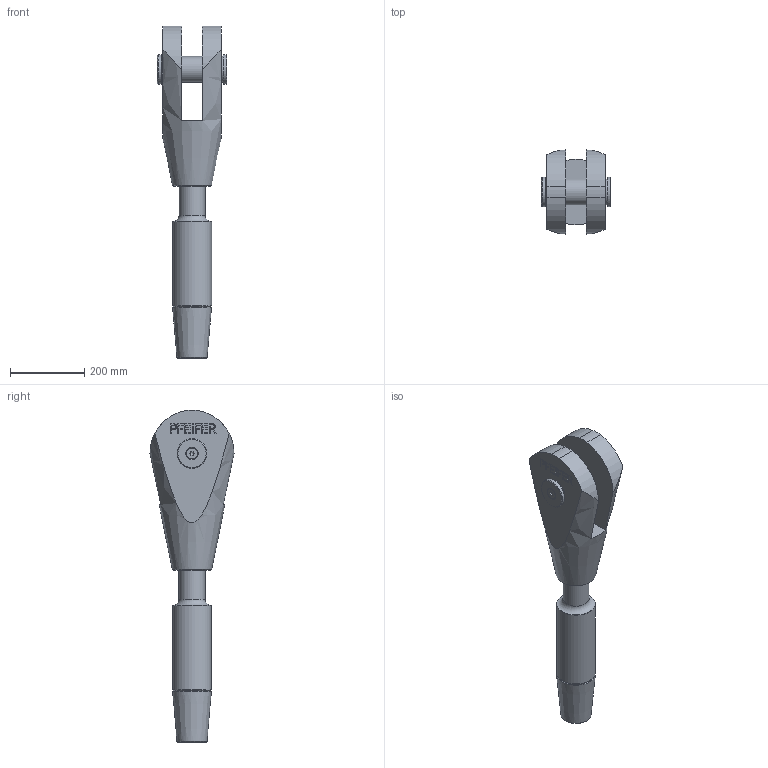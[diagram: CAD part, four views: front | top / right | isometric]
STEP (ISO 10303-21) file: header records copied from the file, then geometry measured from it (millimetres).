
FILE_DESCRIPTION(/* description */ (''),/* implementation_level */ '2;1');
FILE_NAME(/* name */ 'G:\Engineering\700 CAD\Internet-PX-1-step-igs-dxf\520-GAK-ADA-Arbeitsdateien\520-070-GAK-ADA.stp',/* time_stamp */ '2020-07-03T13:12:45+02:00',/* author */ ('schwarz'),/* organization */ (''),/* preprocessor_version */ 'ST-DEVELOPER v16.1',/* originating_system */ 'Autodesk Inventor 2016',/* authorisation */ '');
FILE_SCHEMA (('AUTOMOTIVE_DESIGN { 1 0 10303 214 3 1 1 }'));
Length unit declared in the file: centimetre
Products named in the file (1): 520-070-GAK-ADA-Kunde
Bounding box: 187.3 x 226.18 x 892.88 mm (x, y, z)
Volume: 10428153.7 mm3; surface area: 567303.2 mm2
Topology: 2 solids, 4 shells, 192 faces, 493 edges, 326 vertices
Faces by surface type: plane 138, bspline 21, cylinder 18, cone 14, torus 1
Full cylindrical faces by diameter (mm): 13.835 x1, 16 x1, 17.5 x1, 29.01 x1, 70 x2, 73 x3, 80 x2, 105 x1
Entity records: 5903 total; most frequent: CARTESIAN_POINT 1290, ORIENTED_EDGE 912, DIRECTION 792, EDGE_CURVE 456, LINE 348, VECTOR 348, VERTEX_POINT 316, EDGE_LOOP 242
